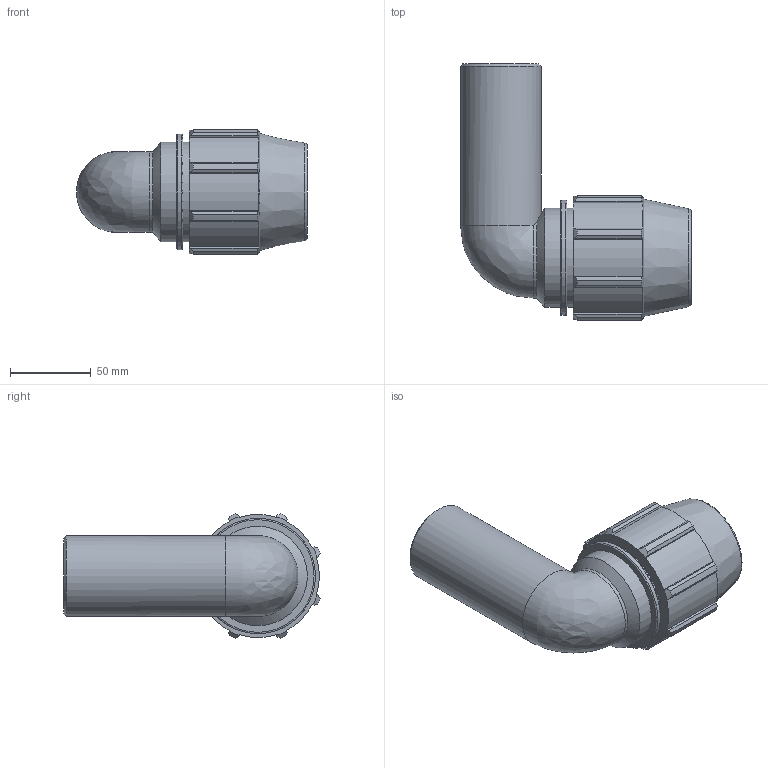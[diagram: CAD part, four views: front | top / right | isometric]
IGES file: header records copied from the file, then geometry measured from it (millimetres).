
Global section: file name: 073500040050_183500040050_0735060400500A.ipt; native system: Autodesk Inventor 2015; preprocessor: unknown; author: KIM; date: 20170608.042239; units: millimetre
Bounding box: 143 x 158.58 x 77.16 mm (x, y, z)
Volume: 391672.6 mm3; surface area: 77355.1 mm2
Topology: 1 solids, 1 shells, 82 faces, 231 edges, 154 vertices
Faces by surface type: plane 39, cylinder 21, cone 12, revolution 9, bspline 1
Full cylindrical faces by diameter (mm): 50 x1, 61.5 x2, 71.34 x1
